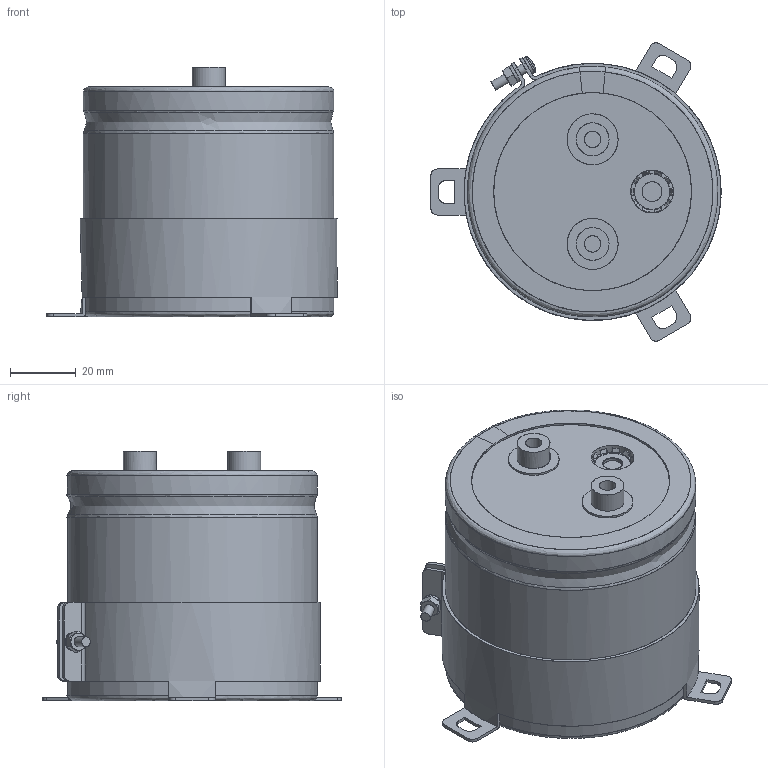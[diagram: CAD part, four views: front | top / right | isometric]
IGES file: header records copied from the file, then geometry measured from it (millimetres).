
Start section: JAMA-IS VERSION  1.0
Bounding box: 88.3 x 90.75 x 76 mm (x, y, z)
Surface area: 80720.9 mm2 (no closed solid volume)
Topology: 0 solids, 0 shells, 259 faces, 4448 edges, 4417 vertices
Faces by surface type: bspline 259
